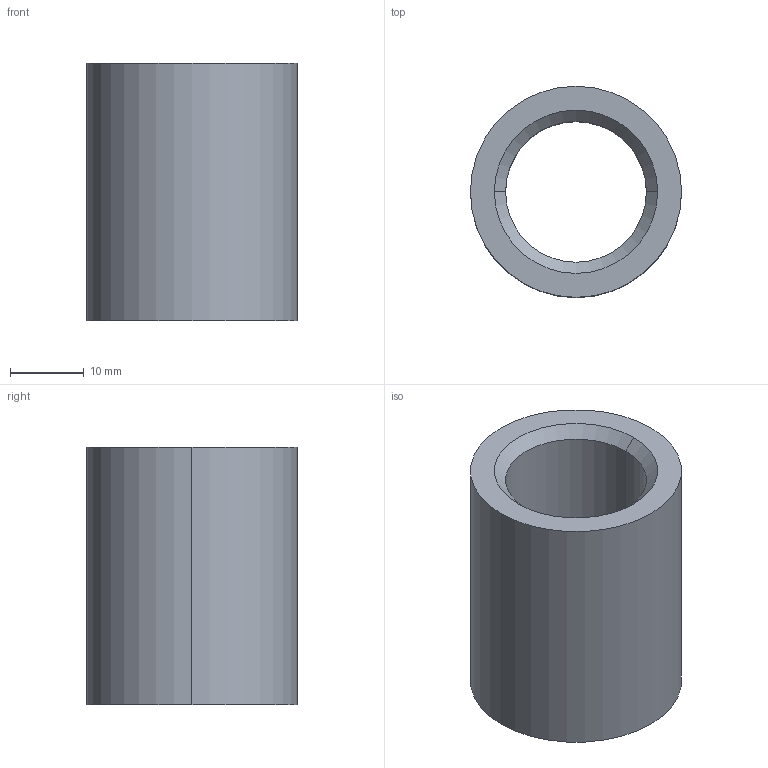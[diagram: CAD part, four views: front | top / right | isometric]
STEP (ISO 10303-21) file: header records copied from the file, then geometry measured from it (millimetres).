
FILE_DESCRIPTION (( 'STEP AP203' ), '1' );
FILE_NAME ('STGP75L1.37.step', '2020-08-24T14:34:52', ( 'Microsoft Corporation' ), ( 'MS' ), 'SwSTEP 2.0', 'SolidWorks 2018', '' );
FILE_SCHEMA (( 'CONFIG_CONTROL_DESIGN' ));
Length unit declared in the file: inch
Products named in the file (1): STGP75L1.37
Bounding box: 28.59 x 28.59 x 34.92 mm (x, y, z)
Volume: 12303.2 mm3; surface area: 5840.3 mm2
Topology: 1 solids, 1 shells, 10 faces, 20 edges, 12 vertices
Faces by surface type: cone 4, cylinder 4, plane 2
Entity records: 347 total; most frequent: DIRECTION 54, CARTESIAN_POINT 43, ORIENTED_EDGE 40, AXIS2_PLACEMENT_3D 23, EDGE_CURVE 20, EDGE_LOOP 12, VERTEX_POINT 12, CIRCLE 12
